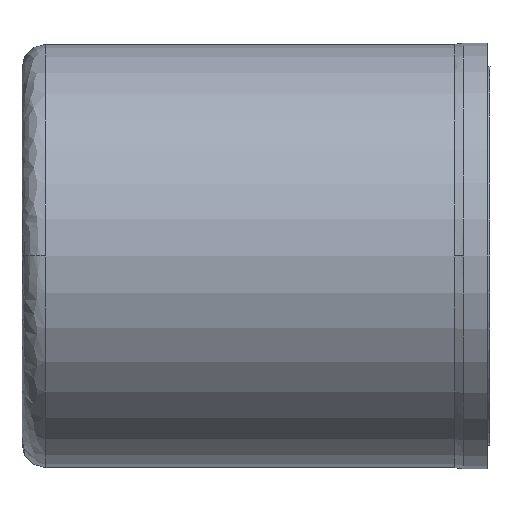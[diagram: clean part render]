
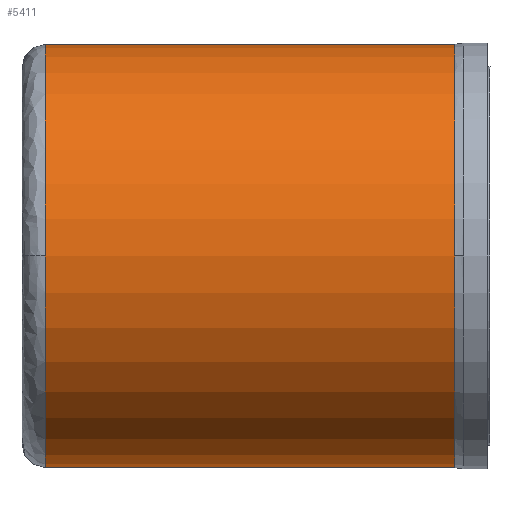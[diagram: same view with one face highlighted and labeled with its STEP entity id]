
A CAD part, front view. The second image highlights one B-rep face of the part: STEP entity #5411.
In plain terms, the highlighted cylindrical face has radius 22.65 mm (diameter 45.3 mm), a partial arc.
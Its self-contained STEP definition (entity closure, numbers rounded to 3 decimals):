
#1019 = CARTESIAN_POINT ( 'NONE',  ( -26.95, 0., 0. ) ) ;
#1020 = DIRECTION ( 'NONE',  ( 1., 0., 0. ) ) ;
#1028 = DIRECTION ( 'NONE',  ( 0., 0., -1. ) ) ;
#1387 = CARTESIAN_POINT ( 'NONE',  ( -47.6, 0., 0. ) ) ;
#1389 = DIRECTION ( 'NONE',  ( 1., 0., 0. ) ) ;
#1391 = DIRECTION ( 'NONE',  ( 0., 0., -1. ) ) ;
#1908 = EDGE_LOOP ( 'NONE', ( #2504, #2505, #2506, #2507, #2508, #2509 ) ) ;
#2504 = ORIENTED_EDGE ( 'NONE', *, *, #6115, .F. ) ;
#2505 = ORIENTED_EDGE ( 'NONE', *, *, #6273, .T. ) ;
#2506 = ORIENTED_EDGE ( 'NONE', *, *, #5473, .T. ) ;
#2507 = ORIENTED_EDGE ( 'NONE', *, *, #6271, .T. ) ;
#2508 = ORIENTED_EDGE ( 'NONE', *, *, #6130, .T. ) ;
#2509 = ORIENTED_EDGE ( 'NONE', *, *, #6274, .T. ) ;
#4224 = CIRCLE ( 'NONE', #13246, 22.65 ) ;
#4225 = CIRCLE ( 'NONE', #13306, 22.65 ) ;
#4226 = VECTOR ( 'NONE', #11911, 1000. ) ;
#4228 = LINE ( 'NONE', #11908, #4226 ) ;
#4575 = VERTEX_POINT ( 'NONE', #4731 ) ;
#4604 = VERTEX_POINT ( 'NONE', #4702 ) ;
#4642 = VERTEX_POINT ( 'NONE', #5513 ) ;
#4651 = VERTEX_POINT ( 'NONE', #5491 ) ;
#4682 = VERTEX_POINT ( 'NONE', #5881 ) ;
#4702 = CARTESIAN_POINT ( 'NONE',  ( -3.8, 0., 22.65 ) ) ;
#4731 = CARTESIAN_POINT ( 'NONE',  ( -3.8, -22.65, 0. ) ) ;
#5202 = CIRCLE ( 'NONE', #13208, 22.65 ) ;
#5223 = VECTOR ( 'NONE', #10968, 1000. ) ;
#5226 = LINE ( 'NONE', #10965, #5223 ) ;
#5411 = ADVANCED_FACE ( 'NONE', ( #6757 ), #7200, .T. ) ;
#5473 = EDGE_CURVE ( 'NONE', #12024, #4642, #7448, .T. ) ;
#5491 = CARTESIAN_POINT ( 'NONE',  ( -47.6, 0., 22.65 ) ) ;
#5513 = CARTESIAN_POINT ( 'NONE',  ( -47.6, 0., -22.65 ) ) ;
#5881 = CARTESIAN_POINT ( 'NONE',  ( -3.8, 0., -22.65 ) ) ;
#6115 = EDGE_CURVE ( 'NONE', #4651, #4604, #5226, .T. ) ;
#6130 = EDGE_CURVE ( 'NONE', #4682, #4575, #5202, .T. ) ;
#6271 = EDGE_CURVE ( 'NONE', #4642, #4682, #4228, .T. ) ;
#6273 = EDGE_CURVE ( 'NONE', #4651, #12024, #4225, .T. ) ;
#6274 = EDGE_CURVE ( 'NONE', #4575, #4604, #4224, .T. ) ;
#6757 = FACE_OUTER_BOUND ( 'NONE', #1908, .T. ) ;
#7200 = CYLINDRICAL_SURFACE ( 'NONE', #13669, 22.65 ) ;
#7448 = CIRCLE ( 'NONE', #13287, 22.65 ) ;
#10965 = CARTESIAN_POINT ( 'NONE',  ( -26.95, 0., 22.65 ) ) ;
#10968 = DIRECTION ( 'NONE',  ( 1., 0., 0. ) ) ;
#11065 = CARTESIAN_POINT ( 'NONE',  ( -47.6, -22.65, 0. ) ) ;
#11068 = CARTESIAN_POINT ( 'NONE',  ( -3.8, 0., 0. ) ) ;
#11070 = DIRECTION ( 'NONE',  ( -1., 0., 0. ) ) ;
#11072 = DIRECTION ( 'NONE',  ( 0., 0., -1. ) ) ;
#11908 = CARTESIAN_POINT ( 'NONE',  ( -26.95, 0., -22.65 ) ) ;
#11911 = DIRECTION ( 'NONE',  ( 1., 0., 0. ) ) ;
#11938 = CARTESIAN_POINT ( 'NONE',  ( -47.6, 0., 0. ) ) ;
#11940 = DIRECTION ( 'NONE',  ( 1., 0., 0. ) ) ;
#11942 = DIRECTION ( 'NONE',  ( 0., 0., -1. ) ) ;
#11948 = CARTESIAN_POINT ( 'NONE',  ( -3.8, 0., 0. ) ) ;
#11950 = DIRECTION ( 'NONE',  ( -1., 0., 0. ) ) ;
#11951 = DIRECTION ( 'NONE',  ( 0., 0., -1. ) ) ;
#12024 = VERTEX_POINT ( 'NONE', #11065 ) ;
#13208 = AXIS2_PLACEMENT_3D ( 'NONE', #11068, #11070, #11072 ) ;
#13246 = AXIS2_PLACEMENT_3D ( 'NONE', #11948, #11950, #11951 ) ;
#13287 = AXIS2_PLACEMENT_3D ( 'NONE', #1387, #1389, #1391 ) ;
#13306 = AXIS2_PLACEMENT_3D ( 'NONE', #11938, #11940, #11942 ) ;
#13669 = AXIS2_PLACEMENT_3D ( 'NONE', #1019, #1020, #1028 ) ;
